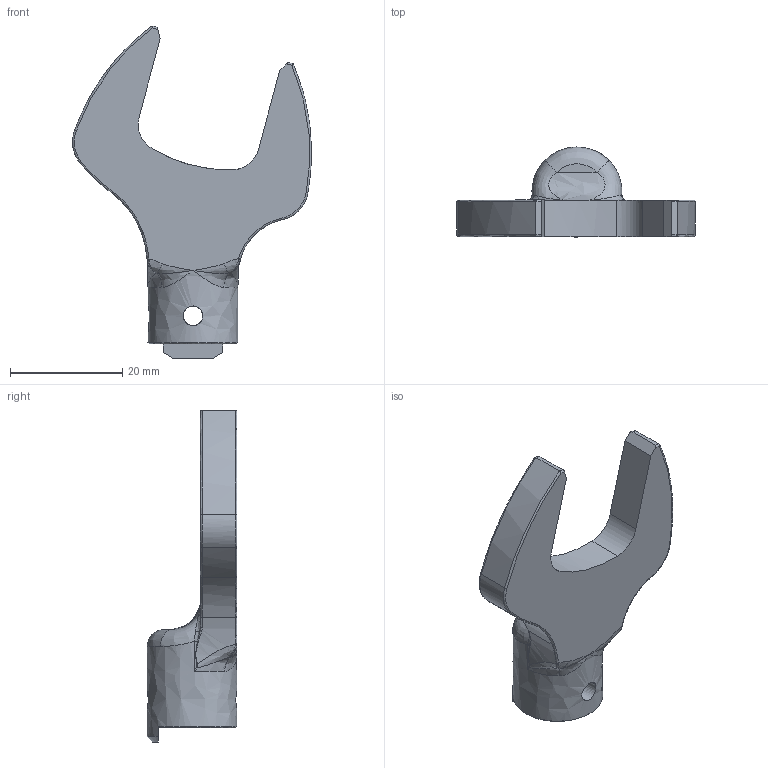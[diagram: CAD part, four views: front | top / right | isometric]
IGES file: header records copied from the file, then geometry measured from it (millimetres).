
Global section: file name: SH10DX22; native system: Autodesk Inventor 2016; preprocessor: unknown; author: Q600; date: 20151029.185243; units: millimetre
Bounding box: 42.48 x 16 x 59.04 mm (x, y, z)
Volume: 7743 mm3; surface area: 4385.4 mm2
Topology: 1 solids, 1 shells, 90 faces, 235 edges, 136 vertices
Faces by surface type: bspline 90
